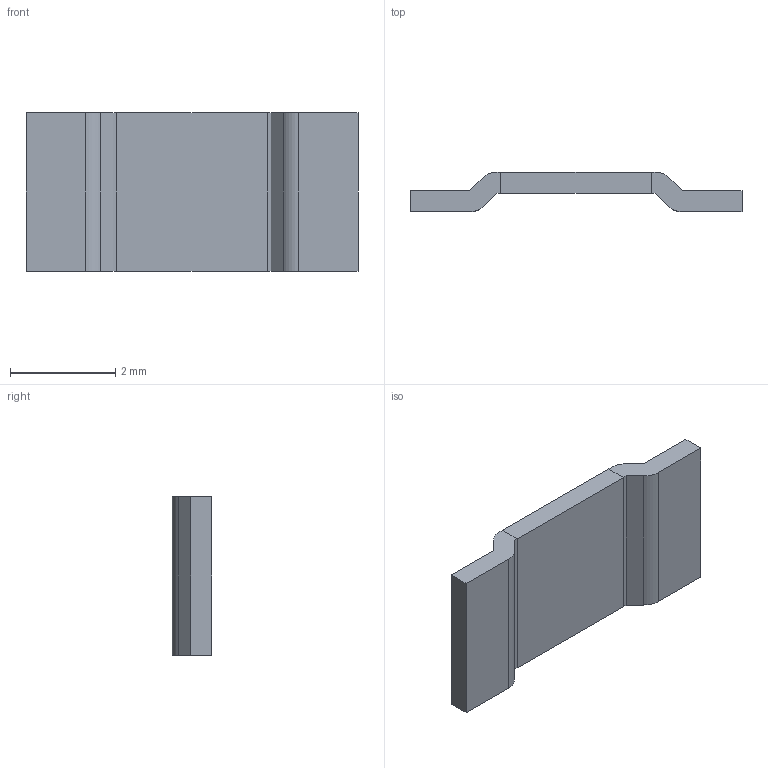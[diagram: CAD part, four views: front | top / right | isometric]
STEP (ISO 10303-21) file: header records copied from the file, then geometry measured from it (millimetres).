
FILE_DESCRIPTION (( 'STEP AP203' ), '1' );
FILE_NAME ('EBWK 2512-3m¦¸.STEP', '2023-11-01T05:47:27', ( 'meks@163.com' ), ( '' ), 'SwSTEP 2.0', 'SolidWorks 2020', '' );
FILE_SCHEMA (( 'CONFIG_CONTROL_DESIGN' ));
Length unit declared in the file: millimetre
Products named in the file (1): EBWK 2512-3m次
Bounding box: 6.3 x 0.75 x 3 mm (x, y, z)
Volume: 7.8 mm3; surface area: 52.3 mm2
Topology: 3 solids, 3 shells, 150 faces, 402 edges, 268 vertices
Faces by surface type: plane 110, bspline 28, cylinder 12
Entity records: 6403 total; most frequent: CARTESIAN_POINT 2737, ORIENTED_EDGE 804, DIRECTION 616, EDGE_CURVE 402, LINE 322, VECTOR 322, VERTEX_POINT 268, EDGE_LOOP 160
